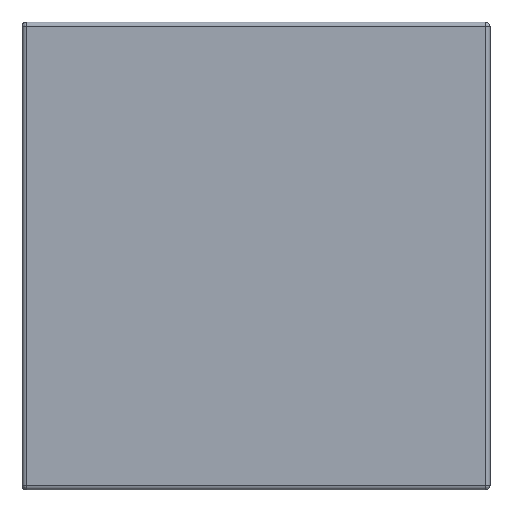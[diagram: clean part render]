
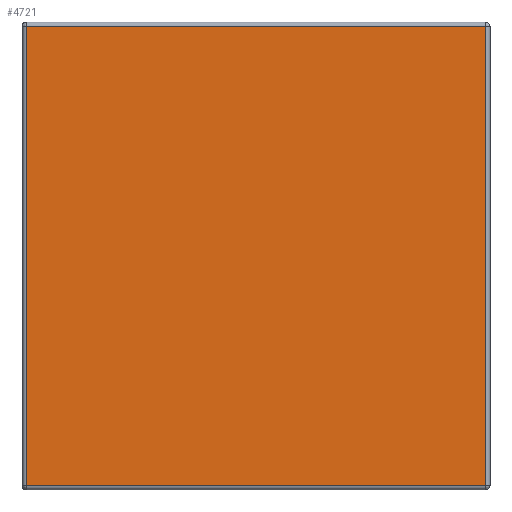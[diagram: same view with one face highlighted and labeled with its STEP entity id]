
A CAD part, left-side view. The second image highlights one B-rep face of the part: STEP entity #4721.
In plain terms, the highlighted planar face has unit normal (-1, 0, 0).
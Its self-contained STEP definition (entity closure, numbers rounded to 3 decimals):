
#44 = CARTESIAN_POINT ( 'NONE',  ( 2199.177, -660.494, -20.8 ) ) ;
#162 = CARTESIAN_POINT ( 'NONE',  ( 2199.177, -681.294, -21. ) ) ;
#260 = CARTESIAN_POINT ( 'NONE',  ( 2199.177, -681.094, -0.2 ) ) ;
#385 = VERTEX_POINT ( 'NONE', #3461 ) ;
#424 = DIRECTION ( 'NONE',  ( 0., 0., -1. ) ) ;
#446 = CARTESIAN_POINT ( 'NONE',  ( 2199.177, -681.294, -20.8 ) ) ;
#606 = EDGE_CURVE ( 'NONE', #1140, #385, #2226, .T. ) ;
#610 = LINE ( 'NONE', #4579, #1309 ) ;
#907 = ORIENTED_EDGE ( 'NONE', *, *, #3680, .F. ) ;
#963 = LINE ( 'NONE', #446, #3277 ) ;
#1119 = ORIENTED_EDGE ( 'NONE', *, *, #4115, .F. ) ;
#1140 = VERTEX_POINT ( 'NONE', #260 ) ;
#1309 = VECTOR ( 'NONE', #2952, 1000. ) ;
#1329 = DIRECTION ( 'NONE',  ( 1., 0., 0. ) ) ;
#1420 = AXIS2_PLACEMENT_3D ( 'NONE', #162, #1329, #3310 ) ;
#2069 = LINE ( 'NONE', #2783, #2809 ) ;
#2104 = ORIENTED_EDGE ( 'NONE', *, *, #606, .F. ) ;
#2226 = LINE ( 'NONE', #2836, #3518 ) ;
#2592 = PLANE ( 'NONE',  #1420 ) ;
#2783 = CARTESIAN_POINT ( 'NONE',  ( 2199.177, -660.494, -21. ) ) ;
#2809 = VECTOR ( 'NONE', #4377, 1000. ) ;
#2836 = CARTESIAN_POINT ( 'NONE',  ( 2199.177, -681.094, -21. ) ) ;
#2895 = EDGE_CURVE ( 'NONE', #2925, #1140, #610, .T. ) ;
#2925 = VERTEX_POINT ( 'NONE', #3803 ) ;
#2952 = DIRECTION ( 'NONE',  ( 0., -1., 0. ) ) ;
#3145 = VERTEX_POINT ( 'NONE', #44 ) ;
#3202 = FACE_OUTER_BOUND ( 'NONE', #3468, .T. ) ;
#3277 = VECTOR ( 'NONE', #4428, 1000. ) ;
#3310 = DIRECTION ( 'NONE',  ( 0., 0., -1. ) ) ;
#3461 = CARTESIAN_POINT ( 'NONE',  ( 2199.177, -681.094, -20.8 ) ) ;
#3468 = EDGE_LOOP ( 'NONE', ( #5179, #907, #1119, #2104 ) ) ;
#3518 = VECTOR ( 'NONE', #424, 1000. ) ;
#3680 = EDGE_CURVE ( 'NONE', #3145, #2925, #2069, .T. ) ;
#3803 = CARTESIAN_POINT ( 'NONE',  ( 2199.177, -660.494, -0.2 ) ) ;
#4115 = EDGE_CURVE ( 'NONE', #385, #3145, #963, .T. ) ;
#4377 = DIRECTION ( 'NONE',  ( 0., 0., 1. ) ) ;
#4428 = DIRECTION ( 'NONE',  ( 0., 1., 0. ) ) ;
#4579 = CARTESIAN_POINT ( 'NONE',  ( 2199.177, -681.294, -0.2 ) ) ;
#4721 = ADVANCED_FACE ( 'NONE', ( #3202 ), #2592, .F. ) ;
#5179 = ORIENTED_EDGE ( 'NONE', *, *, #2895, .F. ) ;
